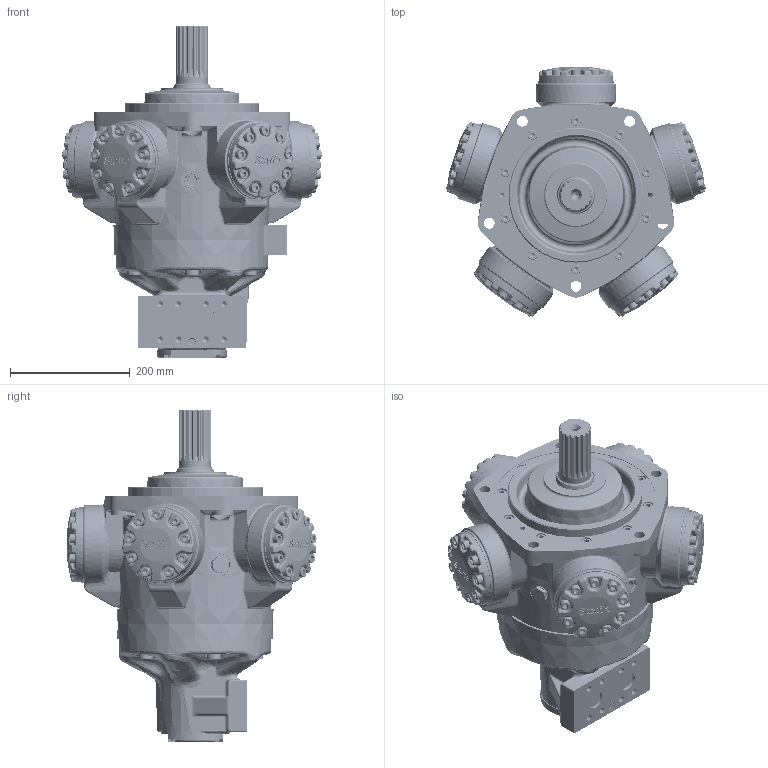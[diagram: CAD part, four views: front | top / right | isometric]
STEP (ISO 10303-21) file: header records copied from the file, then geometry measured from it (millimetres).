
FILE_DESCRIPTION(/* description */ (''),/* implementation_level */ '2;1');
FILE_NAME(/* name */ 'HMC045_Z_SFM3_X.stp',/* time_stamp */ '2025-03-28T11:28:04Z',/* author */ ('ccallanga'),/* organization */ (''),/* preprocessor_version */ 'ST-DEVELOPER v20',/* originating_system */ 'Autodesk Inventor 2024',/* authorisation */ '');
FILE_SCHEMA (('AUTOMOTIVE_DESIGN { 1 0 10303 214 3 1 1 }'));
Products named in the file (1): HMC045 WEBSITE ASSEMBLY_Simplify_1
Bounding box: 433.5 x 415.89 x 554.31 mm (x, y, z)
Volume: 16631054.4 mm3; surface area: 1527335.2 mm2
Topology: 1 solids, 1 shells, 6117 faces, 14728 edges, 8636 vertices
Faces by surface type: bspline 2066, plane 1467, cylinder 1393, torus 628, cone 315, sphere 248
Full cylindrical faces by diameter (mm): 2.2 x4, 3 x2, 3.175 x2, 5.5 x4, 5.917 x1, 6 x4, 6.5 x1, 7 x1, 7.05 x2, 7.938 x3, 8.376 x4, 9.4 x1, 10 x1, 10.25 x8, 11.328 x1, 11.445 x4, 11.913 x4, 12 x1, 12.7 x5, 16 x55, 16.5 x45, 16.51 x1, 17 x10, 18 x5, 19.05 x3, 22 x5, 22.2 x5, 23.825 x5, 25.4 x5, 26.92 x2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
Entity records: 265241 total; most frequent: CARTESIAN_POINT 131833, ORIENTED_EDGE 28962, DIRECTION 22580, EDGE_CURVE 14481, AXIS2_PLACEMENT_3D 9247, VERTEX_POINT 8636, EDGE_LOOP 6535, STYLED_ITEM 6118
